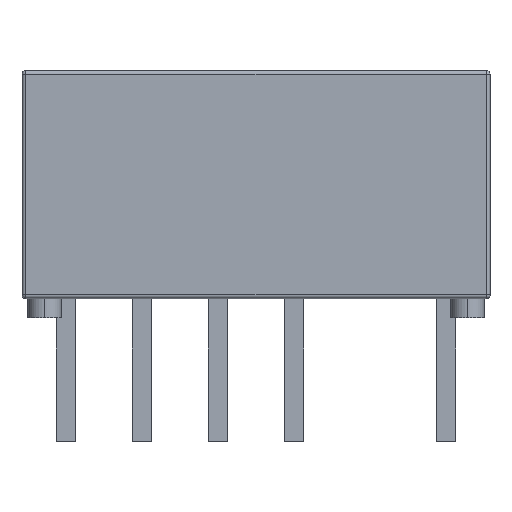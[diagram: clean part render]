
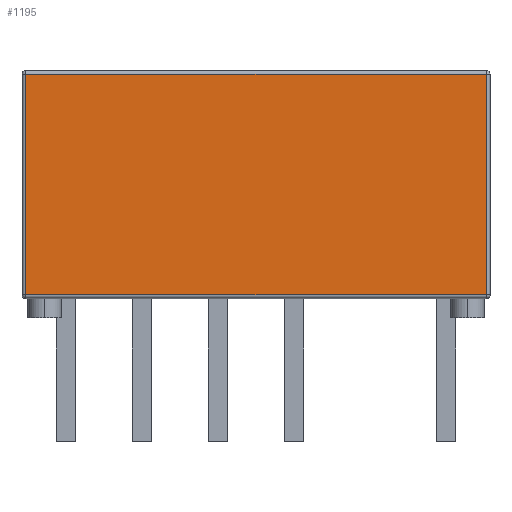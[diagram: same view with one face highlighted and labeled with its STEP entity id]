
A CAD part, top view. The second image highlights one B-rep face of the part: STEP entity #1195.
In plain terms, the highlighted planar face has unit normal (0, 0, 1).
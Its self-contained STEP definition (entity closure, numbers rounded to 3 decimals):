
#1178 = ORIENTED_EDGE ( 'NONE', *, *, #1179, .T. ) ;
#1179 = EDGE_CURVE ( 'NONE', #1206, #1199, #6551, .T. ) ;
#1195 = ADVANCED_FACE ( 'NONE', ( #6619 ), #6604, .F. ) ;
#1196 = EDGE_LOOP ( 'NONE', ( #1197, #1201, #1204, #1178 ) ) ;
#1197 = ORIENTED_EDGE ( 'NONE', *, *, #1198, .T. ) ;
#1198 = EDGE_CURVE ( 'NONE', #1199, #1200, #6599, .T. ) ;
#1199 = VERTEX_POINT ( 'NONE', #6652 ) ;
#1200 = VERTEX_POINT ( 'NONE', #6651 ) ;
#1201 = ORIENTED_EDGE ( 'NONE', *, *, #1202, .T. ) ;
#1202 = EDGE_CURVE ( 'NONE', #1200, #1203, #6650, .T. ) ;
#1203 = VERTEX_POINT ( 'NONE', #6646 ) ;
#1204 = ORIENTED_EDGE ( 'NONE', *, *, #1205, .T. ) ;
#1205 = EDGE_CURVE ( 'NONE', #1203, #1206, #6645, .T. ) ;
#1206 = VERTEX_POINT ( 'NONE', #6641 ) ;
#6548 = DIRECTION ( 'NONE',  ( 0., 1., 0. ) ) ;
#6549 = VECTOR ( 'NONE', #6548, 1000. ) ;
#6550 = CARTESIAN_POINT ( 'NONE',  ( 6.15, 6.092, 1.85 ) ) ;
#6551 = LINE ( 'NONE', #6550, #6549 ) ;
#6597 = VECTOR ( 'NONE', #6653, 1000. ) ;
#6598 = CARTESIAN_POINT ( 'NONE',  ( -6.25, 5.992, 1.85 ) ) ;
#6599 = LINE ( 'NONE', #6598, #6597 ) ;
#6600 = DIRECTION ( 'NONE',  ( -1., 0., 0. ) ) ;
#6601 = DIRECTION ( 'NONE',  ( 0., 0., -1. ) ) ;
#6602 = CARTESIAN_POINT ( 'NONE',  ( 6.25, 6.092, 1.85 ) ) ;
#6603 = AXIS2_PLACEMENT_3D ( 'NONE', #6602, #6601, #6600 ) ;
#6604 = PLANE ( 'NONE',  #6603 ) ;
#6619 = FACE_OUTER_BOUND ( 'NONE', #1196, .T. ) ;
#6641 = CARTESIAN_POINT ( 'NONE',  ( 6.15, 0.1, 1.85 ) ) ;
#6642 = DIRECTION ( 'NONE',  ( 1., 0., 0. ) ) ;
#6643 = VECTOR ( 'NONE', #6642, 1000. ) ;
#6644 = CARTESIAN_POINT ( 'NONE',  ( 6.25, 0.1, 1.85 ) ) ;
#6645 = LINE ( 'NONE', #6644, #6643 ) ;
#6646 = CARTESIAN_POINT ( 'NONE',  ( -6.15, 0.1, 1.85 ) ) ;
#6647 = DIRECTION ( 'NONE',  ( 0., -1., 0. ) ) ;
#6648 = VECTOR ( 'NONE', #6647, 1000. ) ;
#6649 = CARTESIAN_POINT ( 'NONE',  ( -6.15, 6.092, 1.85 ) ) ;
#6650 = LINE ( 'NONE', #6649, #6648 ) ;
#6651 = CARTESIAN_POINT ( 'NONE',  ( -6.15, 5.992, 1.85 ) ) ;
#6652 = CARTESIAN_POINT ( 'NONE',  ( 6.15, 5.992, 1.85 ) ) ;
#6653 = DIRECTION ( 'NONE',  ( -1., 0., 0. ) ) ;
